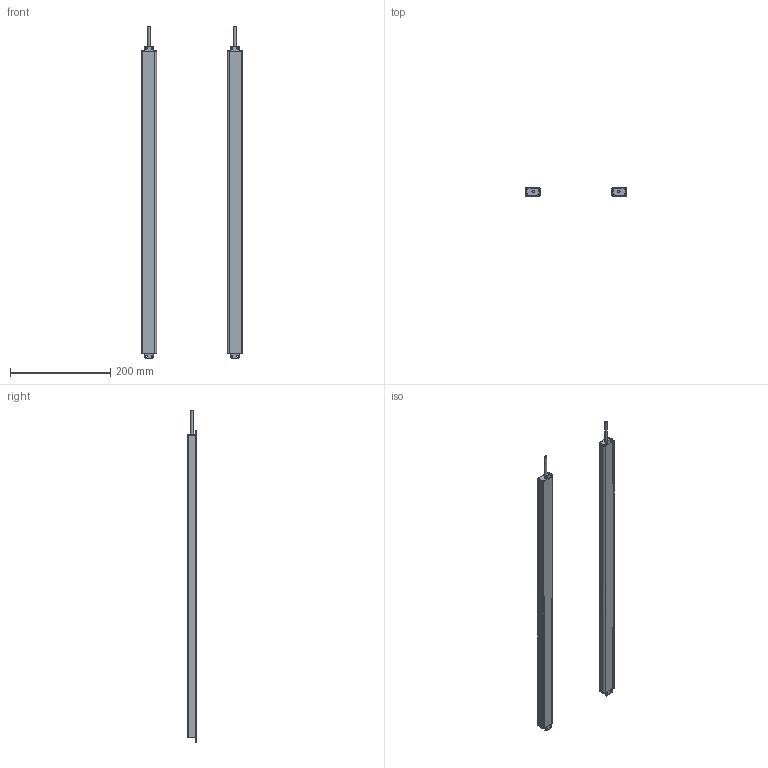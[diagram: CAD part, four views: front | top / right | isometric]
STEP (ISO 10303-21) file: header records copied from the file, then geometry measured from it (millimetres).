
FILE_DESCRIPTION(/* description */ (''),/* implementation_level */ '2;1');
FILE_NAME(/* name */ '3020（16X30ZW).stp',/* time_stamp */ '2020-07-14T19:13:43+08:00',/* author */ (''),/* organization */ (''),/* preprocessor_version */ 'ST-DEVELOPER v16',/* originating_system */ 'SIEMENS PLM Software NX 10.0',/* authorisation */ '');
FILE_SCHEMA (('AP203_CONFIGURATION_CONTROLLED_3D_DESIGN_OF_MECHANICAL_PARTS_AND_ASSEMBLIES_MIM_LF { 1 0 10303 403 2 1 2}'));
Length unit declared in the file: millimetre
Products named in the file (1): Admi58A03253m7hd
Bounding box: 200 x 16 x 661.5 mm (x, y, z)
Volume: 174042 mm3; surface area: 257130.8 mm2
Topology: 10 solids, 10 shells, 296 faces, 830 edges, 554 vertices
Faces by surface type: plane 160, cylinder 136
Full cylindrical faces by diameter (mm): 5 x2
Entity records: 9760 total; most frequent: DIRECTION 1692, CARTESIAN_POINT 1675, ORIENTED_EDGE 1652, EDGE_CURVE 826, AXIS2_PLACEMENT_3D 569, LINE 554, VECTOR 554, VERTEX_POINT 552
